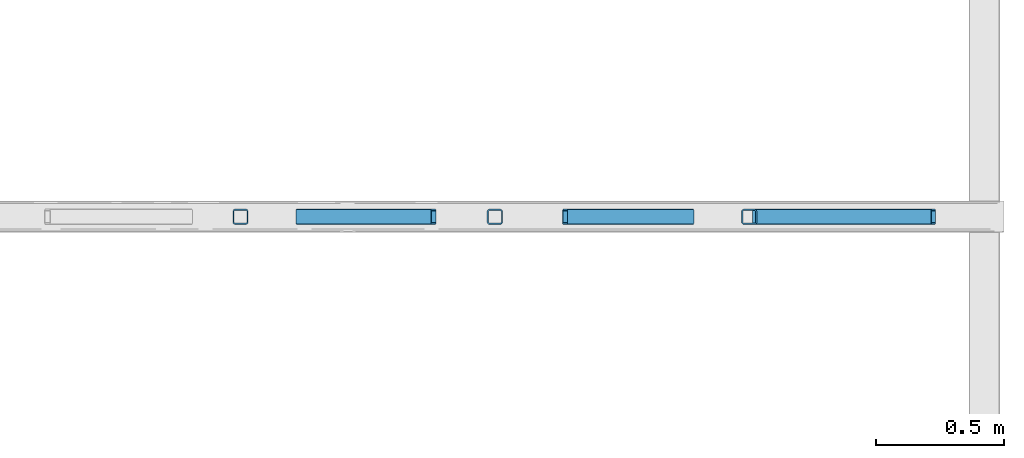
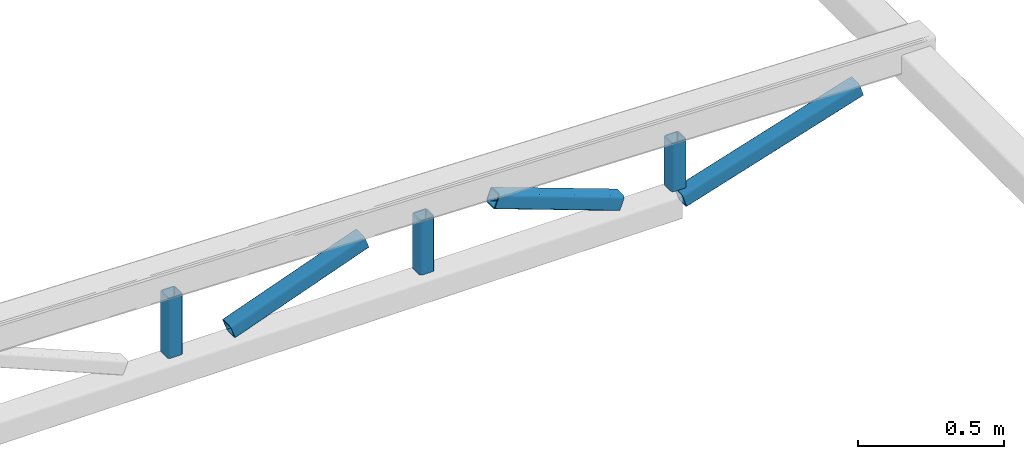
# One storey, part 11 of 12: 6 members, 1 element without a shape of its own.
"""IFC2X3 building model written with IfcOpenShell, lengths in millimetres."""

from ifc_helpers import new_model, entity, si_unit, converted_unit, derived_unit, direction, frame, frame_2d, origin, place, context, subcontext, project, spatial, polyline, circle_curve, parameter, trimmed, segment, composite_curve, outline, extrude, source, transform, mapped, type_object, type_shapes, element, aggregate, save


model = new_model("IFC2X3")

# Units and contexts
model_context = context("Model", 3, precision=0.01, world=origin(), true_north=direction((6.12303176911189e-17, 1.0)))
body_context = subcontext(model_context, "Body", "Model", "MODEL_VIEW")
ifc_project = project(units=[si_unit("LENGTHUNIT", "METRE", prefix="MILLI"), si_unit("AREAUNIT", "SQUARE_METRE"), si_unit("VOLUMEUNIT", "CUBIC_METRE"), converted_unit("PLANEANGLEUNIT", "DEGREE", entity("IfcRatioMeasure", 0.0174532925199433), si_unit("PLANEANGLEUNIT", "RADIAN"), dimensions=[0, 0, 0, 0, 0, 0, 0]), si_unit("MASSUNIT", "GRAM", prefix="KILO"), derived_unit("MASSDENSITYUNIT", [(si_unit("MASSUNIT", "GRAM", prefix="KILO"), 1), (si_unit("LENGTHUNIT", "METRE"), -3)]), si_unit("TIMEUNIT", "SECOND"), si_unit("FREQUENCYUNIT", "HERTZ"), si_unit("THERMODYNAMICTEMPERATUREUNIT", "DEGREE_CELSIUS"), derived_unit("THERMALTRANSMITTANCEUNIT", [(si_unit("MASSUNIT", "GRAM", prefix="KILO"), 1), (si_unit("THERMODYNAMICTEMPERATUREUNIT", "KELVIN"), -1), (si_unit("TIMEUNIT", "SECOND"), -3)]), derived_unit("VOLUMETRICFLOWRATEUNIT", [(si_unit("LENGTHUNIT", "METRE"), 3), (si_unit("TIMEUNIT", "SECOND"), -1)]), si_unit("ELECTRICCURRENTUNIT", "AMPERE"), si_unit("ELECTRICVOLTAGEUNIT", "VOLT"), si_unit("POWERUNIT", "WATT"), si_unit("FORCEUNIT", "NEWTON", prefix="KILO"), si_unit("ILLUMINANCEUNIT", "LUX"), si_unit("LUMINOUSFLUXUNIT", "LUMEN"), si_unit("LUMINOUSINTENSITYUNIT", "CANDELA"), derived_unit("USERDEFINED", [(si_unit("MASSUNIT", "GRAM", prefix="KILO"), -1), (si_unit("LENGTHUNIT", "METRE"), -2), (si_unit("TIMEUNIT", "SECOND"), 3), (si_unit("LUMINOUSFLUXUNIT", "LUMEN"), 1)]), derived_unit("LINEARVELOCITYUNIT", [(si_unit("LENGTHUNIT", "METRE"), 1), (si_unit("TIMEUNIT", "SECOND"), -1)]), si_unit("PRESSUREUNIT", "PASCAL"), derived_unit("USERDEFINED", [(si_unit("LENGTHUNIT", "METRE"), -2), (si_unit("MASSUNIT", "GRAM", prefix="KILO"), 1), (si_unit("TIMEUNIT", "SECOND"), -2)])], contexts=[model_context])

# Site, building, storey
site_placement = place(None, frame((0.0, 0.0, 101000.0)))
site = spatial("IfcSite", under=ifc_project, at=site_placement, Name="Default", CompositionType="ELEMENT")
building_placement = place(site_placement, origin())
building = spatial("IfcBuilding", under=site, at=building_placement, CompositionType="ELEMENT")
storey_placement = place(building_placement, frame((0.0, 0.0, 6025.0)))
storey = spatial("IfcBuildingStorey", under=building, at=storey_placement, Name="03", CompositionType="ELEMENT", Elevation=6024.9999999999)

# Assembly, members
assembly_placement = place(storey_placement, origin())
assembly = element("IfcElementAssembly", 1, at=assembly_placement, inside=storey, Name="Gitterdrager:Standard", ObjectType="Gitterdrager:Standard", AssemblyPlace="NOTDEFINED", PredefinedType="TRUSS")
member_type_1 = type_object("IfcMemberType", Name="60x60x5", PredefinedType="BRACE")
shared_shape_1 = source(origin(), body_context, "Body", "SweptSolid", [
    extrude(outline(composite_curve([segment(trimmed(circle_curve(frame_2d((-20.0, -20.0), x_axis=(1.0, 0.0)), 10.0), [parameter(180.0)], [parameter(270.0)], True, "PARAMETER"), True, "CONTINUOUS"), segment(polyline([(-20.0, -30.0), (20.0, -30.0)]), True, "CONTINUOUS"), segment(trimmed(circle_curve(frame_2d((20.0, -20.0), x_axis=(1.0, 0.0)), 10.0), [parameter(270.0)], [parameter(5.08888749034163e-14)], True, "PARAMETER"), True, "CONTINUOUS"), segment(polyline([(30.0, -20.0), (30.0, 20.0)]), True, "CONTINUOUS"), segment(trimmed(circle_curve(frame_2d((20.0, 20.0), x_axis=(1.0, 0.0)), 10.0), [parameter(360.0)], [parameter(89.9999999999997)], True, "PARAMETER"), True, "CONTINUOUS"), segment(polyline([(20.0, 30.0), (-20.0, 30.0)]), True, "CONTINUOUS"), segment(trimmed(circle_curve(frame_2d((-20.0, 20.0), x_axis=(1.0, 0.0)), 10.0), [parameter(90.0000000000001)], [parameter(180.0)], True, "PARAMETER"), True, "CONTINUOUS"), segment(polyline([(-30.0, 20.0), (-30.0, -20.0)]), True, "CONTINUOUS")], self_intersect=False), holes=[composite_curve([segment(polyline([(20.0, -25.0), (-20.0, -25.0)]), True, "CONTINUOUS"), segment(trimmed(circle_curve(frame_2d((-20.0, -20.0), x_axis=(1.0, 0.0)), 5.0), [parameter(180.0)], [parameter(270.0)], True, "PARAMETER"), False, "CONTINUOUS"), segment(polyline([(-25.0, -20.0), (-25.0, 20.0)]), True, "CONTINUOUS"), segment(trimmed(circle_curve(frame_2d((-20.0, 20.0), x_axis=(1.0, 0.0)), 5.0), [parameter(90.0000000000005)], [parameter(180.0)], True, "PARAMETER"), False, "CONTINUOUS"), segment(polyline([(-20.0, 25.0), (20.0, 25.0)]), True, "CONTINUOUS"), segment(trimmed(circle_curve(frame_2d((20.0, 20.0), x_axis=(1.0, 0.0)), 5.0), [parameter(0.0)], [parameter(90.0000000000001)], True, "PARAMETER"), False, "CONTINUOUS"), segment(polyline([(25.0, 20.0), (25.0, -20.0)]), True, "CONTINUOUS"), segment(trimmed(circle_curve(frame_2d((20.0, -20.0), x_axis=(1.0, 0.0)), 5.0), [parameter(270.0)], [parameter(4.57999874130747e-13)], True, "PARAMETER"), False, "CONTINUOUS")], self_intersect=False)]), frame((-130.995453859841, 0.0, 0.0), z_axis=(1.0, 0.0, 0.0), x_axis=(0.0, -1.0, 0.0)), (0.0, 0.0, 1.0), 250.455480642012),
])
type_shapes(member_type_1, [shared_shape_1])
member_1_placement = place(assembly_placement, frame((20206.2644969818, 38432.1864743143, -147.328300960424), z_axis=(1.0, 0.0, 0.0), x_axis=(0.0, 0.0, 1.0)))
member_1 = element("IfcMember", 2, at=member_1_placement, type_object=member_type_1, Name="Bjelke HUP:60x60x5", ObjectType="60x60x5", context=body_context, shape_type="MappedRepresentation", body=[
    mapped(shared_shape_1, transform((0.0, 0.0, 0.0), scale=1.0)),
])
member_type_2 = type_object("IfcMemberType", Name="60x60x5", PredefinedType="BRACE")
shared_shape_2 = source(origin(), body_context, "Body", "SweptSolid", [
    extrude(outline(composite_curve([segment(trimmed(circle_curve(frame_2d((-20.0, -20.0), x_axis=(1.0, 0.0)), 10.0), [parameter(180.0)], [parameter(270.0)], True, "PARAMETER"), True, "CONTINUOUS"), segment(polyline([(-20.0, -30.0), (20.0, -30.0)]), True, "CONTINUOUS"), segment(trimmed(circle_curve(frame_2d((20.0, -20.0), x_axis=(1.0, 0.0)), 10.0), [parameter(270.0)], [parameter(5.08888749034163e-14)], True, "PARAMETER"), True, "CONTINUOUS"), segment(polyline([(30.0, -20.0), (30.0, 20.0)]), True, "CONTINUOUS"), segment(trimmed(circle_curve(frame_2d((20.0, 20.0), x_axis=(1.0, 0.0)), 10.0), [parameter(360.0)], [parameter(89.9999999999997)], True, "PARAMETER"), True, "CONTINUOUS"), segment(polyline([(20.0, 30.0), (-20.0, 30.0)]), True, "CONTINUOUS"), segment(trimmed(circle_curve(frame_2d((-20.0, 20.0), x_axis=(1.0, 0.0)), 10.0), [parameter(90.0000000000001)], [parameter(180.0)], True, "PARAMETER"), True, "CONTINUOUS"), segment(polyline([(-30.0, 20.0), (-30.0, -20.0)]), True, "CONTINUOUS")], self_intersect=False), holes=[composite_curve([segment(polyline([(20.0, -25.0), (-20.0, -25.0)]), True, "CONTINUOUS"), segment(trimmed(circle_curve(frame_2d((-20.0, -20.0), x_axis=(1.0, 0.0)), 5.0), [parameter(180.0)], [parameter(270.0)], True, "PARAMETER"), False, "CONTINUOUS"), segment(polyline([(-25.0, -20.0), (-25.0, 20.0)]), True, "CONTINUOUS"), segment(trimmed(circle_curve(frame_2d((-20.0, 20.0), x_axis=(1.0, 0.0)), 5.0), [parameter(90.0000000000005)], [parameter(180.0)], True, "PARAMETER"), False, "CONTINUOUS"), segment(polyline([(-20.0, 25.0), (20.0, 25.0)]), True, "CONTINUOUS"), segment(trimmed(circle_curve(frame_2d((20.0, 20.0), x_axis=(1.0, 0.0)), 5.0), [parameter(0.0)], [parameter(90.0000000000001)], True, "PARAMETER"), False, "CONTINUOUS"), segment(polyline([(25.0, 20.0), (25.0, -20.0)]), True, "CONTINUOUS"), segment(trimmed(circle_curve(frame_2d((20.0, -20.0), x_axis=(1.0, 0.0)), 5.0), [parameter(270.0)], [parameter(4.57999874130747e-13)], True, "PARAMETER"), False, "CONTINUOUS")], self_intersect=False)]), frame((-118.596969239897, 0.0, 0.0), z_axis=(1.0, 0.0, 0.0), x_axis=(0.0, -1.0, 0.0)), (0.0, 0.0, 1.0), 225.658511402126),
])
type_shapes(member_type_2, [shared_shape_2])
member_2_placement = place(assembly_placement, frame((21199.5978303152, 38432.1864743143, -159.726785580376), z_axis=(1.0, 0.0, 0.0), x_axis=(0.0, 0.0, 1.0)))
member_2 = element("IfcMember", 3, at=member_2_placement, type_object=member_type_2, Name="Bjelke HUP:60x60x5", ObjectType="60x60x5", context=body_context, shape_type="MappedRepresentation", body=[
    mapped(shared_shape_2, transform((0.0, 0.0, 0.0), scale=1.0)),
])
member_type_3 = type_object("IfcMemberType", Name="60x60x5", PredefinedType="BRACE")
shared_shape_3 = source(origin(), body_context, "Body", "SweptSolid", [
    extrude(outline(composite_curve([segment(trimmed(circle_curve(frame_2d((-20.0, -20.0), x_axis=(1.0, 0.0)), 10.0), [parameter(180.0)], [parameter(270.0)], True, "PARAMETER"), True, "CONTINUOUS"), segment(polyline([(-20.0, -30.0), (20.0, -30.0)]), True, "CONTINUOUS"), segment(trimmed(circle_curve(frame_2d((20.0, -20.0), x_axis=(1.0, 0.0)), 10.0), [parameter(270.0)], [parameter(5.08888749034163e-14)], True, "PARAMETER"), True, "CONTINUOUS"), segment(polyline([(30.0, -20.0), (30.0, 20.0)]), True, "CONTINUOUS"), segment(trimmed(circle_curve(frame_2d((20.0, 20.0), x_axis=(1.0, 0.0)), 10.0), [parameter(360.0)], [parameter(89.9999999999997)], True, "PARAMETER"), True, "CONTINUOUS"), segment(polyline([(20.0, 30.0), (-20.0, 30.0)]), True, "CONTINUOUS"), segment(trimmed(circle_curve(frame_2d((-20.0, 20.0), x_axis=(1.0, 0.0)), 10.0), [parameter(90.0000000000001)], [parameter(180.0)], True, "PARAMETER"), True, "CONTINUOUS"), segment(polyline([(-30.0, 20.0), (-30.0, -20.0)]), True, "CONTINUOUS")], self_intersect=False), holes=[composite_curve([segment(polyline([(20.0, -25.0), (-20.0, -25.0)]), True, "CONTINUOUS"), segment(trimmed(circle_curve(frame_2d((-20.0, -20.0), x_axis=(1.0, 0.0)), 5.0), [parameter(180.0)], [parameter(270.0)], True, "PARAMETER"), False, "CONTINUOUS"), segment(polyline([(-25.0, -20.0), (-25.0, 20.0)]), True, "CONTINUOUS"), segment(trimmed(circle_curve(frame_2d((-20.0, 20.0), x_axis=(1.0, 0.0)), 5.0), [parameter(90.0000000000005)], [parameter(180.0)], True, "PARAMETER"), False, "CONTINUOUS"), segment(polyline([(-20.0, 25.0), (20.0, 25.0)]), True, "CONTINUOUS"), segment(trimmed(circle_curve(frame_2d((20.0, 20.0), x_axis=(1.0, 0.0)), 5.0), [parameter(0.0)], [parameter(90.0000000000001)], True, "PARAMETER"), False, "CONTINUOUS"), segment(polyline([(25.0, 20.0), (25.0, -20.0)]), True, "CONTINUOUS"), segment(trimmed(circle_curve(frame_2d((20.0, -20.0), x_axis=(1.0, 0.0)), 5.0), [parameter(270.0)], [parameter(4.57999874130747e-13)], True, "PARAMETER"), False, "CONTINUOUS")], self_intersect=False)]), frame((-106.198484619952, 0.0, 0.0), z_axis=(1.0, 0.0, 0.0), x_axis=(0.0, -1.0, 0.0)), (0.0, 0.0, 1.0), 200.861542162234),
])
type_shapes(member_type_3, [shared_shape_3])
member_3_placement = place(assembly_placement, frame((22192.9311636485, 38432.1864743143, -172.125270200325), z_axis=(1.0, 0.0, 0.0), x_axis=(0.0, 0.0, 1.0)))
member_3 = element("IfcMember", 4, at=member_3_placement, type_object=member_type_3, Name="Bjelke HUP:60x60x5", ObjectType="60x60x5", context=body_context, shape_type="MappedRepresentation", body=[
    mapped(shared_shape_3, transform((0.0, 0.0, 0.0), scale=1.0)),
])
member_type_4 = type_object("IfcMemberType", Name="60x60x5", PredefinedType="BRACE")
shared_shape_4 = source(origin(), body_context, "Body", "SweptSolid", [
    extrude(outline(composite_curve([segment(trimmed(circle_curve(frame_2d((-20.0, -20.0), x_axis=(1.0, 0.0)), 10.0), [parameter(180.0)], [parameter(270.0)], True, "PARAMETER"), True, "CONTINUOUS"), segment(polyline([(-20.0, -30.0), (20.0, -30.0)]), True, "CONTINUOUS"), segment(trimmed(circle_curve(frame_2d((20.0, -20.0), x_axis=(1.0, 0.0)), 10.0), [parameter(270.0)], [parameter(5.08888749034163e-14)], True, "PARAMETER"), True, "CONTINUOUS"), segment(polyline([(30.0, -20.0), (30.0, 20.0)]), True, "CONTINUOUS"), segment(trimmed(circle_curve(frame_2d((20.0, 20.0), x_axis=(1.0, 0.0)), 10.0), [parameter(360.0)], [parameter(89.9999999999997)], True, "PARAMETER"), True, "CONTINUOUS"), segment(polyline([(20.0, 30.0), (-20.0, 30.0)]), True, "CONTINUOUS"), segment(trimmed(circle_curve(frame_2d((-20.0, 20.0), x_axis=(1.0, 0.0)), 10.0), [parameter(90.0000000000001)], [parameter(180.0)], True, "PARAMETER"), True, "CONTINUOUS"), segment(polyline([(-30.0, 20.0), (-30.0, -20.0)]), True, "CONTINUOUS")], self_intersect=False), holes=[composite_curve([segment(polyline([(20.0, -25.0), (-20.0, -25.0)]), True, "CONTINUOUS"), segment(trimmed(circle_curve(frame_2d((-20.0, -20.0), x_axis=(1.0, 0.0)), 5.0), [parameter(180.0)], [parameter(270.0)], True, "PARAMETER"), False, "CONTINUOUS"), segment(polyline([(-25.0, -20.0), (-25.0, 20.0)]), True, "CONTINUOUS"), segment(trimmed(circle_curve(frame_2d((-20.0, 20.0), x_axis=(1.0, 0.0)), 5.0), [parameter(90.0000000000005)], [parameter(180.0)], True, "PARAMETER"), False, "CONTINUOUS"), segment(polyline([(-20.0, 25.0), (20.0, 25.0)]), True, "CONTINUOUS"), segment(trimmed(circle_curve(frame_2d((20.0, 20.0), x_axis=(1.0, 0.0)), 5.0), [parameter(0.0)], [parameter(90.0000000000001)], True, "PARAMETER"), False, "CONTINUOUS"), segment(polyline([(25.0, 20.0), (25.0, -20.0)]), True, "CONTINUOUS"), segment(trimmed(circle_curve(frame_2d((20.0, -20.0), x_axis=(1.0, 0.0)), 5.0), [parameter(270.0)], [parameter(4.57999874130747e-13)], True, "PARAMETER"), False, "CONTINUOUS")], self_intersect=False)]), frame((-288.019442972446, 0.0, 0.0), z_axis=(1.0, 0.0, 0.0), x_axis=(0.0, -1.0, 0.0)), (0.0, 0.0, 1.0), 561.890828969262),
])
type_shapes(member_type_4, [shared_shape_4])
member_4_placement = place(assembly_placement, frame((20702.9311636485, 38432.1864743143, -159.726785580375), z_axis=(0.342896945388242, 0.0, -0.939373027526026), x_axis=(0.939373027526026, 0.0, 0.342896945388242)))
member_4 = element("IfcMember", 5, at=member_4_placement, type_object=member_type_4, Name="Bjelke HUP:60x60x5", ObjectType="60x60x5", context=body_context, shape_type="MappedRepresentation", body=[
    mapped(shared_shape_4, transform((0.0, 0.0, 0.0), scale=1.0)),
])
member_type_5 = type_object("IfcMemberType", Name="60x60x5", PredefinedType="BRACE")
shared_shape_5 = source(origin(), body_context, "Body", "SweptSolid", [
    extrude(outline(composite_curve([segment(trimmed(circle_curve(frame_2d((-20.0, -20.0), x_axis=(1.0, 0.0)), 10.0), [parameter(180.0)], [parameter(270.0)], True, "PARAMETER"), True, "CONTINUOUS"), segment(polyline([(-20.0, -30.0), (20.0, -30.0)]), True, "CONTINUOUS"), segment(trimmed(circle_curve(frame_2d((20.0, -20.0), x_axis=(1.0, 0.0)), 10.0), [parameter(270.0)], [parameter(5.08888749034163e-14)], True, "PARAMETER"), True, "CONTINUOUS"), segment(polyline([(30.0, -20.0), (30.0, 20.0)]), True, "CONTINUOUS"), segment(trimmed(circle_curve(frame_2d((20.0, 20.0), x_axis=(1.0, 0.0)), 10.0), [parameter(360.0)], [parameter(89.9999999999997)], True, "PARAMETER"), True, "CONTINUOUS"), segment(polyline([(20.0, 30.0), (-20.0, 30.0)]), True, "CONTINUOUS"), segment(trimmed(circle_curve(frame_2d((-20.0, 20.0), x_axis=(1.0, 0.0)), 10.0), [parameter(90.0000000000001)], [parameter(180.0)], True, "PARAMETER"), True, "CONTINUOUS"), segment(polyline([(-30.0, 20.0), (-30.0, -20.0)]), True, "CONTINUOUS")], self_intersect=False), holes=[composite_curve([segment(polyline([(20.0, -25.0), (-20.0, -25.0)]), True, "CONTINUOUS"), segment(trimmed(circle_curve(frame_2d((-20.0, -20.0), x_axis=(1.0, 0.0)), 5.0), [parameter(180.0)], [parameter(270.0)], True, "PARAMETER"), False, "CONTINUOUS"), segment(polyline([(-25.0, -20.0), (-25.0, 20.0)]), True, "CONTINUOUS"), segment(trimmed(circle_curve(frame_2d((-20.0, 20.0), x_axis=(1.0, 0.0)), 5.0), [parameter(90.0000000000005)], [parameter(180.0)], True, "PARAMETER"), False, "CONTINUOUS"), segment(polyline([(-20.0, 25.0), (20.0, 25.0)]), True, "CONTINUOUS"), segment(trimmed(circle_curve(frame_2d((20.0, 20.0), x_axis=(1.0, 0.0)), 5.0), [parameter(0.0)], [parameter(90.0000000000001)], True, "PARAMETER"), False, "CONTINUOUS"), segment(polyline([(25.0, 20.0), (25.0, -20.0)]), True, "CONTINUOUS"), segment(trimmed(circle_curve(frame_2d((20.0, -20.0), x_axis=(1.0, 0.0)), 5.0), [parameter(270.0)], [parameter(4.57999874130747e-13)], True, "PARAMETER"), False, "CONTINUOUS")], self_intersect=False)]), frame((-236.712172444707, 0.0, 0.0), z_axis=(1.0, 0.0, 0.0), x_axis=(0.0, -1.0, 0.0)), (0.0, 0.0, 1.0), 524.731615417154),
])
type_shapes(member_type_5, [shared_shape_5])
member_5_placement = place(assembly_placement, frame((21696.2644969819, 38432.1864743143, -159.726785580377), z_axis=(-0.342896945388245, 0.0, -0.939373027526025), x_axis=(0.939373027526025, 0.0, -0.342896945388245)))
member_5 = element("IfcMember", 6, at=member_5_placement, type_object=member_type_5, Name="Bjelke HUP:60x60x5", ObjectType="60x60x5", context=body_context, shape_type="MappedRepresentation", body=[
    mapped(shared_shape_5, transform((0.0, 0.0, 0.0), scale=1.0)),
])
member_type_6 = type_object("IfcMemberType", Name="60x60x5", PredefinedType="BRACE")
shared_shape_6 = source(origin(), body_context, "Body", "SweptSolid", [
    extrude(outline(composite_curve([segment(trimmed(circle_curve(frame_2d((-20.0, -20.0), x_axis=(1.0, 0.0)), 10.0), [parameter(180.0)], [parameter(270.0)], True, "PARAMETER"), True, "CONTINUOUS"), segment(polyline([(-20.0, -30.0), (20.0, -30.0)]), True, "CONTINUOUS"), segment(trimmed(circle_curve(frame_2d((20.0, -20.0), x_axis=(1.0, 0.0)), 10.0), [parameter(270.0)], [parameter(5.08888749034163e-14)], True, "PARAMETER"), True, "CONTINUOUS"), segment(polyline([(30.0, -20.0), (30.0, 20.0)]), True, "CONTINUOUS"), segment(trimmed(circle_curve(frame_2d((20.0, 20.0), x_axis=(1.0, 0.0)), 10.0), [parameter(360.0)], [parameter(89.9999999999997)], True, "PARAMETER"), True, "CONTINUOUS"), segment(polyline([(20.0, 30.0), (-20.0, 30.0)]), True, "CONTINUOUS"), segment(trimmed(circle_curve(frame_2d((-20.0, 20.0), x_axis=(1.0, 0.0)), 10.0), [parameter(90.0000000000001)], [parameter(180.0)], True, "PARAMETER"), True, "CONTINUOUS"), segment(polyline([(-30.0, 20.0), (-30.0, -20.0)]), True, "CONTINUOUS")], self_intersect=False), holes=[composite_curve([segment(polyline([(20.0, -25.0), (-20.0, -25.0)]), True, "CONTINUOUS"), segment(trimmed(circle_curve(frame_2d((-20.0, -20.0), x_axis=(1.0, 0.0)), 5.0), [parameter(180.0)], [parameter(270.0)], True, "PARAMETER"), False, "CONTINUOUS"), segment(polyline([(-25.0, -20.0), (-25.0, 20.0)]), True, "CONTINUOUS"), segment(trimmed(circle_curve(frame_2d((-20.0, 20.0), x_axis=(1.0, 0.0)), 5.0), [parameter(90.0000000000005)], [parameter(180.0)], True, "PARAMETER"), False, "CONTINUOUS"), segment(polyline([(-20.0, 25.0), (20.0, 25.0)]), True, "CONTINUOUS"), segment(trimmed(circle_curve(frame_2d((20.0, 20.0), x_axis=(1.0, 0.0)), 5.0), [parameter(0.0)], [parameter(90.0000000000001)], True, "PARAMETER"), False, "CONTINUOUS"), segment(polyline([(25.0, 20.0), (25.0, -20.0)]), True, "CONTINUOUS"), segment(trimmed(circle_curve(frame_2d((20.0, -20.0), x_axis=(1.0, 0.0)), 5.0), [parameter(270.0)], [parameter(4.57999874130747e-13)], True, "PARAMETER"), False, "CONTINUOUS")], self_intersect=False)]), frame((-498.586864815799, 0.0, 0.0), z_axis=(1.0, 0.0, 0.0), x_axis=(0.0, -1.0, 0.0)), (0.0, 0.0, 1.0), 731.687840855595),
])
type_shapes(member_type_6, [shared_shape_6])
member_6_placement = place(assembly_placement, frame((22689.5978303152, 38432.1864743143, -184.523754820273), z_axis=(0.300533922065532, 0.0, -0.953771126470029), x_axis=(0.953771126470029, 0.0, 0.300533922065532)))
member_6 = element("IfcMember", 7, at=member_6_placement, type_object=member_type_6, Name="Bjelke HUP:60x60x5", ObjectType="60x60x5", context=body_context, shape_type="MappedRepresentation", body=[
    mapped(shared_shape_6, transform((0.0, 0.0, 0.0), scale=1.0)),
])
aggregate(assembly, [member_1, member_2, member_3, member_4, member_5, member_6])

save(model, "model.ifc")
